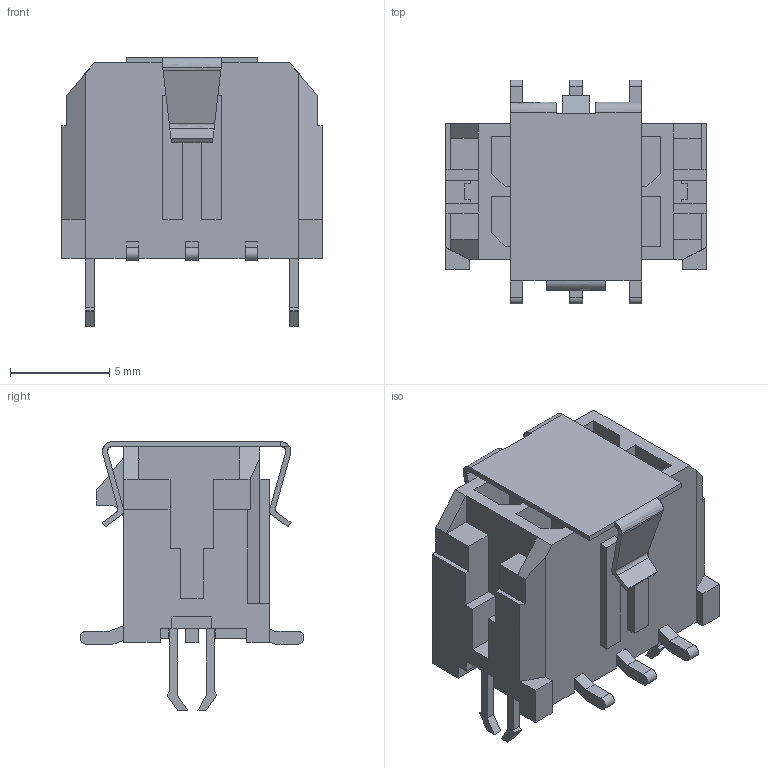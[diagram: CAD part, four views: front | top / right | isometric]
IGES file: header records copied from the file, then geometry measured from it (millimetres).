
Start section: SolidWorks IGES file using analytic representation for surfaces
Global section: file name: C:\Users\rd02\Desktop\3D照片圖1050603\4976-2X03TD3LT-M\4976-2X03TD3LT-M.IGS,15; native system: HSolidWorks 2011; preprocessor: SolidWorks 2011; author: rd02; date: 160620.115843; units: millimetre
Bounding box: 13.15 x 11.3 x 13.56 mm (x, y, z)
Surface area: 1364.2 mm2 (no closed solid volume)
Topology: 0 solids, 0 shells, 394 faces, 2200 edges, 2200 vertices
Faces by surface type: bspline 369, revolution 25
